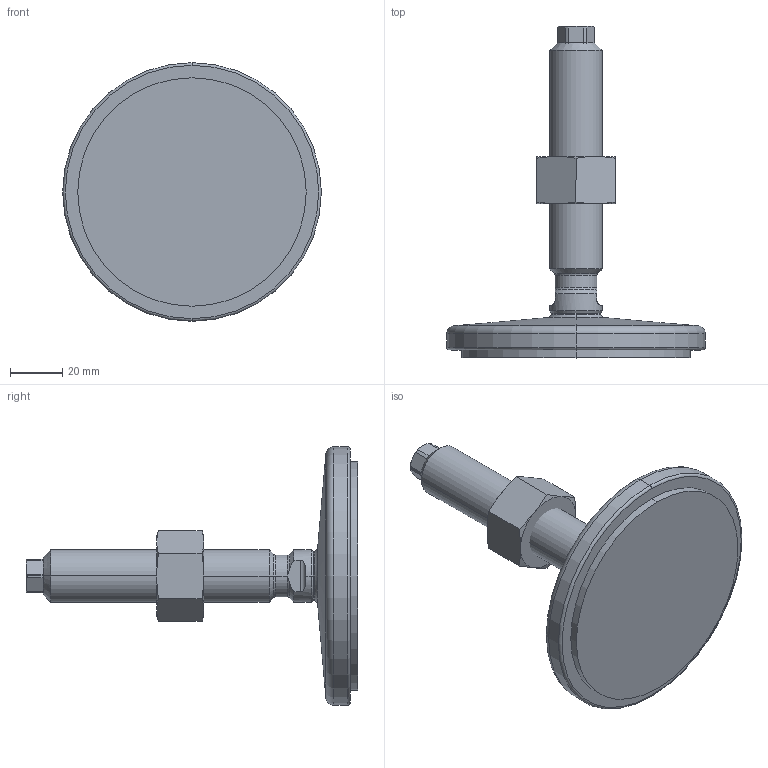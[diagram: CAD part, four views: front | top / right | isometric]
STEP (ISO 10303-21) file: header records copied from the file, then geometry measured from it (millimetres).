
FILE_DESCRIPTION (( 'STEP AP214' ), '1' );
FILE_NAME ('21-100-M20-100-D1-VK.step', '2020-10-02T17:37:24', ( '' ), ( '' ), 'SwSTEP 2.0', 'SolidWorks 2019', '' );
FILE_SCHEMA (( 'AUTOMOTIVE_DESIGN' ));
Length unit declared in the file: millimetre
Products named in the file (4): WB21_Spindel_V^WB21_V_M20-100; WB21_Fußteller 21^WB21_V_D1-100-R12-B9 (M20); WB4032^WB21_V_M20; 21-100-M20-100-D1-VK
Assembly tree (3 placements, depth 2):
  21-100-M20-100-D1-VK
    WB21_Fußteller 21^WB21_V_D1-100-R12-B9 (M20)
    WB21_Spindel_V^WB21_V_M20-100
    WB4032^WB21_V_M20
Bounding box: 99 x 127.02 x 99 mm (x, y, z)
Volume: 140076.1 mm3; surface area: 30131.4 mm2
Topology: 3 solids, 3 shells, 98 faces, 219 edges, 129 vertices
Faces by surface type: cone 29, plane 28, cylinder 27, torus 10, sphere 4
Entity records: 3117 total; most frequent: CARTESIAN_POINT 724, DIRECTION 476, ORIENTED_EDGE 438, EDGE_CURVE 219, AXIS2_PLACEMENT_3D 205, VERTEX_POINT 129, EDGE_LOOP 102, CIRCLE 101
